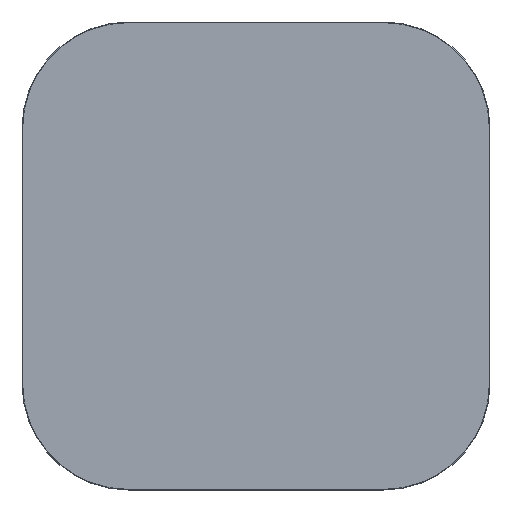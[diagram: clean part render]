
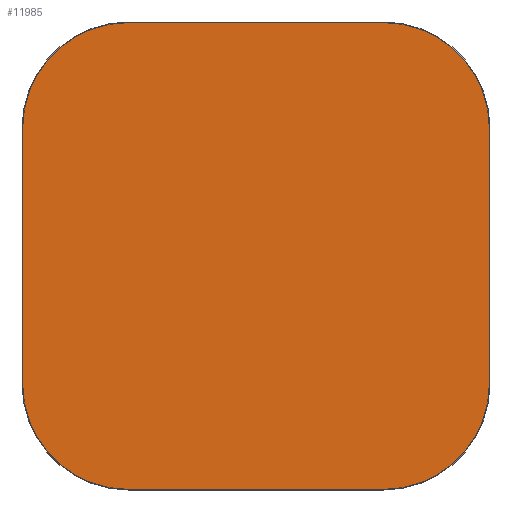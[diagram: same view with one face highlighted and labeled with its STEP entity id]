
A CAD part, top view. The second image highlights one B-rep face of the part: STEP entity #11985.
In plain terms, the highlighted planar face has unit normal (0, 0, 1).
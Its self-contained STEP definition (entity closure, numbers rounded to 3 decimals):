
#11910=CARTESIAN_POINT('',(0.,0.,20.));
#11911=DIRECTION('',(1.,0.,0.));
#11912=DIRECTION('',(0.,0.,1.));
#11913=AXIS2_PLACEMENT_3D('',#11910,#11912,#11911);
#11914=PLANE('',#11913);
#11915=CARTESIAN_POINT('',(-300.,-548.5,20.));
#11916=VERTEX_POINT('',#11915);
#11917=CARTESIAN_POINT('',(300.,-548.5,20.));
#11918=VERTEX_POINT('',#11917);
#11919=CARTESIAN_POINT('',(-300.,-548.5,20.));
#11920=DIRECTION('',(1.,0.,0.));
#11921=VECTOR('',#11920,600.);
#11922=LINE('',#11919,#11921);
#11923=EDGE_CURVE('',#11916,#11918,#11922,.T.);
#11924=ORIENTED_EDGE('E105',*,*,#11923,.T.);
#11925=CARTESIAN_POINT('',(548.5,-300.,20.));
#11926=VERTEX_POINT('',#11925);
#11927=CARTESIAN_POINT('',(300.,-300.,20.));
#11928=DIRECTION('',(0.,-1.,0.));
#11929=DIRECTION('',(0.,0.,1.));
#11930=AXIS2_PLACEMENT_3D('',#11927,#11929,#11928);
#11931=CIRCLE('',#11930,248.5);
#11932=EDGE_CURVE('',#11918,#11926,#11931,.T.);
#11933=ORIENTED_EDGE('E107',*,*,#11932,.T.);
#11934=CARTESIAN_POINT('',(548.5,300.,20.));
#11935=VERTEX_POINT('',#11934);
#11936=CARTESIAN_POINT('',(548.5,-300.,20.));
#11937=DIRECTION('',(0.,1.,0.));
#11938=VECTOR('',#11937,600.);
#11939=LINE('',#11936,#11938);
#11940=EDGE_CURVE('',#11926,#11935,#11939,.T.);
#11941=ORIENTED_EDGE('E109',*,*,#11940,.T.);
#11942=CARTESIAN_POINT('',(300.,548.5,20.));
#11943=VERTEX_POINT('',#11942);
#11944=CARTESIAN_POINT('',(300.,300.,20.));
#11945=DIRECTION('',(1.,0.,0.));
#11946=DIRECTION('',(0.,0.,1.));
#11947=AXIS2_PLACEMENT_3D('',#11944,#11946,#11945);
#11948=CIRCLE('',#11947,248.5);
#11949=EDGE_CURVE('',#11935,#11943,#11948,.T.);
#11950=ORIENTED_EDGE('E111',*,*,#11949,.T.);
#11951=CARTESIAN_POINT('',(-300.,548.5,20.));
#11952=VERTEX_POINT('',#11951);
#11953=CARTESIAN_POINT('',(300.,548.5,20.));
#11954=DIRECTION('',(-1.,0.,0.));
#11955=VECTOR('',#11954,600.);
#11956=LINE('',#11953,#11955);
#11957=EDGE_CURVE('',#11943,#11952,#11956,.T.);
#11958=ORIENTED_EDGE('E113',*,*,#11957,.T.);
#11959=CARTESIAN_POINT('',(-548.5,300.,20.));
#11960=VERTEX_POINT('',#11959);
#11961=CARTESIAN_POINT('',(-300.,300.,20.));
#11962=DIRECTION('',(0.,1.,0.));
#11963=DIRECTION('',(0.,0.,1.));
#11964=AXIS2_PLACEMENT_3D('',#11961,#11963,#11962);
#11965=CIRCLE('',#11964,248.5);
#11966=EDGE_CURVE('',#11952,#11960,#11965,.T.);
#11967=ORIENTED_EDGE('E115',*,*,#11966,.T.);
#11968=CARTESIAN_POINT('',(-548.5,-300.,20.));
#11969=VERTEX_POINT('',#11968);
#11970=CARTESIAN_POINT('',(-548.5,300.,20.));
#11971=DIRECTION('',(0.,-1.,0.));
#11972=VECTOR('',#11971,600.);
#11973=LINE('',#11970,#11972);
#11974=EDGE_CURVE('',#11960,#11969,#11973,.T.);
#11975=ORIENTED_EDGE('E117',*,*,#11974,.T.);
#11976=CARTESIAN_POINT('',(-300.,-300.,20.));
#11977=DIRECTION('',(-1.,0.,0.));
#11978=DIRECTION('',(0.,0.,1.));
#11979=AXIS2_PLACEMENT_3D('',#11976,#11978,#11977);
#11980=CIRCLE('',#11979,248.5);
#11981=EDGE_CURVE('',#11969,#11916,#11980,.T.);
#11982=ORIENTED_EDGE('E119',*,*,#11981,.T.);
#11983=EDGE_LOOP('',(#11924,#11933,#11941,#11950,#11958,#11967,#11975,#11982));
#11984=FACE_OUTER_BOUND('',#11983,.T.);
#11985=ADVANCED_FACE('F2',(#11984),#11914,.T.);
